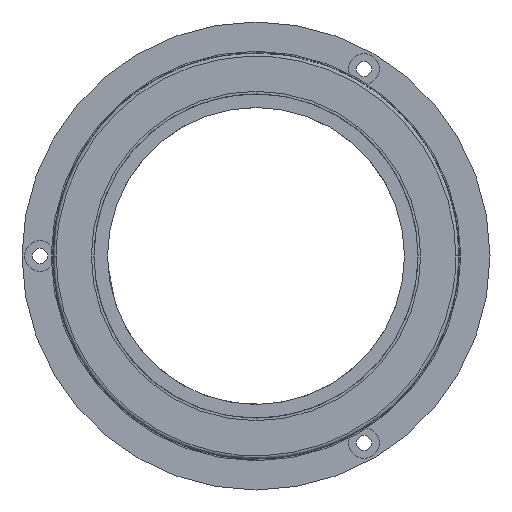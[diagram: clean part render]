
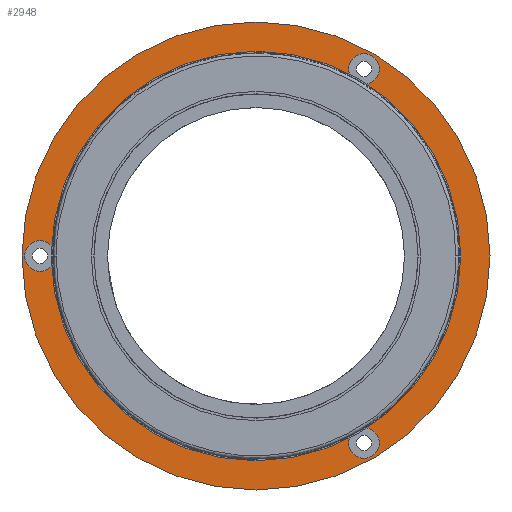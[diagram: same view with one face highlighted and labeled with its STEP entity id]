
A CAD part, left-side view. The second image highlights one B-rep face of the part: STEP entity #2948.
In plain terms, the highlighted planar face has unit normal (-1, 0, 0).
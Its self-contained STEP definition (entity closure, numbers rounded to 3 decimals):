
#136 = EDGE_LOOP ( 'NONE', ( #69352, #54548 ) ) ;
#315 = EDGE_LOOP ( 'NONE', ( #41915, #20839 ) ) ;
#2379 = DIRECTION ( 'NONE',  ( 0., 1., 0. ) ) ;
#2948 = ADVANCED_FACE ( 'NONE', ( #68374, #5191, #45551, #62366, #9164 ), #22236, .T. ) ;
#3286 = DIRECTION ( 'NONE',  ( 0., 1., 0. ) ) ;
#3879 = CARTESIAN_POINT ( 'NONE',  ( 2.8, 26., 0. ) ) ;
#4076 = CARTESIAN_POINT ( 'NONE',  ( 2.8, 20., 0. ) ) ;
#4284 = EDGE_CURVE ( 'NONE', #20554, #27716, #37640, .T. ) ;
#4733 = DIRECTION ( 'NONE',  ( 1., 0., 0. ) ) ;
#5191 = FACE_BOUND ( 'NONE', #67111, .T. ) ;
#7559 = EDGE_LOOP ( 'NONE', ( #37605, #45941 ) ) ;
#7592 = VERTEX_POINT ( 'NONE', #40541 ) ;
#8520 = CARTESIAN_POINT ( 'NONE',  ( 2.8, 0., 0. ) ) ;
#9164 = FACE_BOUND ( 'NONE', #47569, .T. ) ;
#9302 = CIRCLE ( 'NONE', #36511, 26. ) ;
#10736 = CIRCLE ( 'NONE', #52205, 20. ) ;
#11018 = CARTESIAN_POINT ( 'NONE',  ( 2.8, -10.3, 20.785 ) ) ;
#11646 = AXIS2_PLACEMENT_3D ( 'NONE', #37337, #68351, #50271 ) ;
#11886 = DIRECTION ( 'NONE',  ( 0., -1., 0. ) ) ;
#14424 = EDGE_CURVE ( 'NONE', #66911, #26007, #38153, .T. ) ;
#14473 = CIRCLE ( 'NONE', #49650, 20. ) ;
#15428 = VERTEX_POINT ( 'NONE', #11018 ) ;
#16056 = VERTEX_POINT ( 'NONE', #68916 ) ;
#16545 = AXIS2_PLACEMENT_3D ( 'NONE', #33390, #19815, #52123 ) ;
#18334 = AXIS2_PLACEMENT_3D ( 'NONE', #68548, #4733, #11886 ) ;
#18760 = CARTESIAN_POINT ( 'NONE',  ( 2.8, -12., -20.785 ) ) ;
#19730 = CIRCLE ( 'NONE', #16545, 1.7 ) ;
#19815 = DIRECTION ( 'NONE',  ( 1., 0., 0. ) ) ;
#20554 = VERTEX_POINT ( 'NONE', #28349 ) ;
#20839 = ORIENTED_EDGE ( 'NONE', *, *, #4284, .T. ) ;
#21851 = DIRECTION ( 'NONE',  ( 1., 0., 0. ) ) ;
#22099 = DIRECTION ( 'NONE',  ( 0., -1., 0. ) ) ;
#22236 = PLANE ( 'NONE',  #57286 ) ;
#22380 = DIRECTION ( 'NONE',  ( 1., 0., 0. ) ) ;
#25134 = DIRECTION ( 'NONE',  ( 1., 0., 0. ) ) ;
#26007 = VERTEX_POINT ( 'NONE', #51762 ) ;
#27655 = CIRCLE ( 'NONE', #18334, 1.7 ) ;
#27716 = VERTEX_POINT ( 'NONE', #31745 ) ;
#27825 = EDGE_CURVE ( 'NONE', #27716, #20554, #19730, .T. ) ;
#28349 = CARTESIAN_POINT ( 'NONE',  ( 2.8, -10.3, -20.785 ) ) ;
#28796 = DIRECTION ( 'NONE',  ( 0., -1., 0. ) ) ;
#29610 = VERTEX_POINT ( 'NONE', #58631 ) ;
#31745 = CARTESIAN_POINT ( 'NONE',  ( 2.8, -13.7, -20.785 ) ) ;
#32442 = EDGE_CURVE ( 'NONE', #7592, #29610, #14473, .T. ) ;
#32984 = EDGE_CURVE ( 'NONE', #49023, #41842, #64796, .T. ) ;
#33390 = CARTESIAN_POINT ( 'NONE',  ( 2.8, -12., -20.785 ) ) ;
#35604 = CIRCLE ( 'NONE', #72404, 1.7 ) ;
#36511 = AXIS2_PLACEMENT_3D ( 'NONE', #61009, #79866, #60184 ) ;
#37337 = CARTESIAN_POINT ( 'NONE',  ( 2.8, -12., 20.785 ) ) ;
#37605 = ORIENTED_EDGE ( 'NONE', *, *, #42081, .T. ) ;
#37640 = CIRCLE ( 'NONE', #41235, 1.7 ) ;
#37979 = DIRECTION ( 'NONE',  ( 0., 1., 0. ) ) ;
#38153 = CIRCLE ( 'NONE', #79171, 1.7 ) ;
#40249 = DIRECTION ( 'NONE',  ( 1., 0., 0. ) ) ;
#40541 = CARTESIAN_POINT ( 'NONE',  ( 2.8, 20., 0. ) ) ;
#40716 = DIRECTION ( 'NONE',  ( -1., 0., 0. ) ) ;
#41235 = AXIS2_PLACEMENT_3D ( 'NONE', #18760, #25134, #69375 ) ;
#41586 = DIRECTION ( 'NONE',  ( -1., 0., 0. ) ) ;
#41842 = VERTEX_POINT ( 'NONE', #3879 ) ;
#41915 = ORIENTED_EDGE ( 'NONE', *, *, #27825, .T. ) ;
#42081 = EDGE_CURVE ( 'NONE', #41842, #49023, #9302, .T. ) ;
#45126 = ORIENTED_EDGE ( 'NONE', *, *, #32442, .T. ) ;
#45551 = FACE_BOUND ( 'NONE', #136, .T. ) ;
#45941 = ORIENTED_EDGE ( 'NONE', *, *, #32984, .T. ) ;
#47569 = EDGE_LOOP ( 'NONE', ( #56582, #70412 ) ) ;
#47811 = CARTESIAN_POINT ( 'NONE',  ( 2.8, 24., 0. ) ) ;
#48920 = CIRCLE ( 'NONE', #11646, 1.7 ) ;
#49023 = VERTEX_POINT ( 'NONE', #56536 ) ;
#49650 = AXIS2_PLACEMENT_3D ( 'NONE', #69522, #63137, #37979 ) ;
#50271 = DIRECTION ( 'NONE',  ( 0., -1., 0. ) ) ;
#51762 = CARTESIAN_POINT ( 'NONE',  ( 2.8, 22.3, 0. ) ) ;
#52123 = DIRECTION ( 'NONE',  ( 0., -1., 0. ) ) ;
#52205 = AXIS2_PLACEMENT_3D ( 'NONE', #8520, #40249, #3286 ) ;
#54467 = ORIENTED_EDGE ( 'NONE', *, *, #68405, .T. ) ;
#54548 = ORIENTED_EDGE ( 'NONE', *, *, #66893, .T. ) ;
#55207 = AXIS2_PLACEMENT_3D ( 'NONE', #78384, #40716, #2379 ) ;
#56536 = CARTESIAN_POINT ( 'NONE',  ( 2.8, -26., 0. ) ) ;
#56582 = ORIENTED_EDGE ( 'NONE', *, *, #67275, .T. ) ;
#57286 = AXIS2_PLACEMENT_3D ( 'NONE', #4076, #41586, #66766 ) ;
#58631 = CARTESIAN_POINT ( 'NONE',  ( 2.8, -20., 0. ) ) ;
#60184 = DIRECTION ( 'NONE',  ( 0., 1., 0. ) ) ;
#60241 = CARTESIAN_POINT ( 'NONE',  ( 2.8, 25.7, 0. ) ) ;
#61009 = CARTESIAN_POINT ( 'NONE',  ( 2.8, 0., 0. ) ) ;
#62366 = FACE_BOUND ( 'NONE', #315, .T. ) ;
#63137 = DIRECTION ( 'NONE',  ( 1., 0., 0. ) ) ;
#64796 = CIRCLE ( 'NONE', #55207, 26. ) ;
#66766 = DIRECTION ( 'NONE',  ( 0., -1., 0. ) ) ;
#66893 = EDGE_CURVE ( 'NONE', #15428, #16056, #35604, .T. ) ;
#66911 = VERTEX_POINT ( 'NONE', #60241 ) ;
#67111 = EDGE_LOOP ( 'NONE', ( #45126, #54467 ) ) ;
#67275 = EDGE_CURVE ( 'NONE', #26007, #66911, #27655, .T. ) ;
#68351 = DIRECTION ( 'NONE',  ( 1., 0., 0. ) ) ;
#68374 = FACE_OUTER_BOUND ( 'NONE', #7559, .T. ) ;
#68405 = EDGE_CURVE ( 'NONE', #29610, #7592, #10736, .T. ) ;
#68548 = CARTESIAN_POINT ( 'NONE',  ( 2.8, 24., 0. ) ) ;
#68916 = CARTESIAN_POINT ( 'NONE',  ( 2.8, -13.7, 20.785 ) ) ;
#69352 = ORIENTED_EDGE ( 'NONE', *, *, #71023, .T. ) ;
#69375 = DIRECTION ( 'NONE',  ( 0., -1., 0. ) ) ;
#69522 = CARTESIAN_POINT ( 'NONE',  ( 2.8, 0., 0. ) ) ;
#70412 = ORIENTED_EDGE ( 'NONE', *, *, #14424, .T. ) ;
#71023 = EDGE_CURVE ( 'NONE', #16056, #15428, #48920, .T. ) ;
#72404 = AXIS2_PLACEMENT_3D ( 'NONE', #73838, #22380, #22099 ) ;
#73838 = CARTESIAN_POINT ( 'NONE',  ( 2.8, -12., 20.785 ) ) ;
#78384 = CARTESIAN_POINT ( 'NONE',  ( 2.8, 0., 0. ) ) ;
#79171 = AXIS2_PLACEMENT_3D ( 'NONE', #47811, #21851, #28796 ) ;
#79866 = DIRECTION ( 'NONE',  ( -1., 0., 0. ) ) ;
